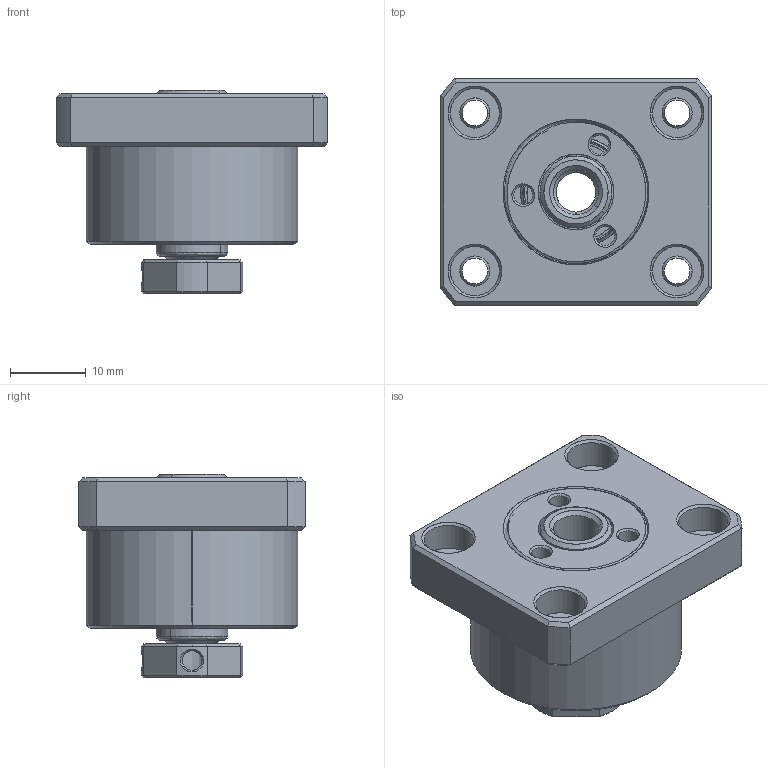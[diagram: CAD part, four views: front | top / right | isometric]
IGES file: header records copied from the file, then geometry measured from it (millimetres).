
Start section: SolidWorks IGES file using analytic representation for surfaces
Bounding box: 36 x 30 x 27 mm (x, y, z)
Surface area: 6413.3 mm2 (no closed solid volume)
Topology: 0 solids, 0 shells, 175 faces, 2289 edges, 2288 vertices
Faces by surface type: revolution 122, bspline 53
